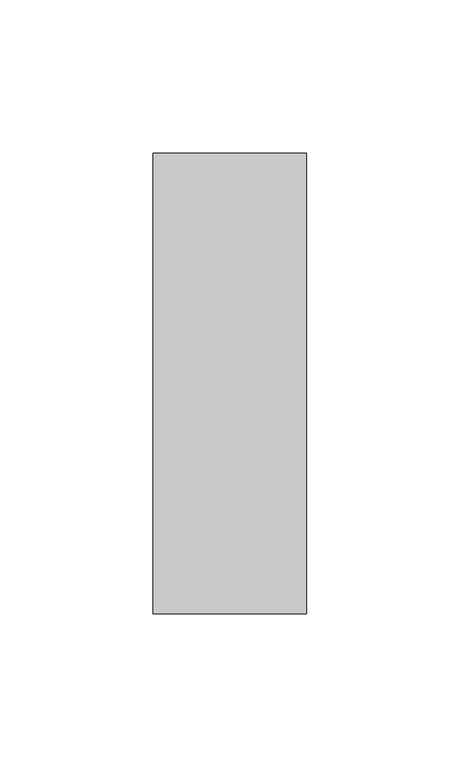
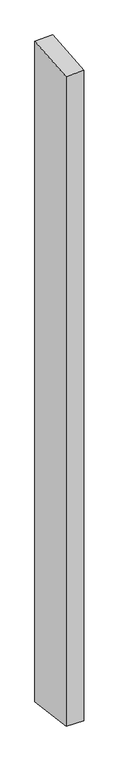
"""IFC4 building model written with IfcOpenShell, lengths in millimetres: member geometry, Прямоугольный импост : 50 x 150 мм."""

from ifc_helpers import new_model, si_unit, origin, place, context, project, spatial, faceted_brep, source, transform, mapped, element, save


def member_cb868340(model_context):
    return source(origin(), model_context, "Body", "Brep", [
        faceted_brep([(-25.0, 75.0, 5.7993512), (25.0, 75.0, 7.1667461), (25.0, 75.0, -1940.1578519), (-25.0, 75.0, -1938.3707979), (-25.0, -75.0, -7.1667461), (-25.0, -75.0, -1920.1500268), (25.0, -75.0, -5.7993512), (25.0, -75.0, -1921.9370808)], [[[0, 1, 2, 3]], [[4, 0, 3, 5]], [[6, 4, 5, 7]], [[1, 6, 7, 2]], [[1, 0, 4, 6]], [[2, 7, 5, 3]]]),
    ])


if __name__ == "__main__":
    model = new_model("IFC4")
    model_context = context("Model", 3, world=origin())
    ifc_project = project(units=[si_unit("LENGTHUNIT", "METRE", prefix="MILLI")], contexts=[model_context])
    site = spatial("IfcSite", under=ifc_project)
    building = spatial("IfcBuilding", under=site)
    placement = place(None, origin())
    member_shape = member_cb868340(model_context)
    element("IfcMember", 1, ObjectType="Прямоугольный импост : 50 x 150 мм", at=placement, inside=building, context=model_context, shape_type="MappedRepresentation", body=[
        mapped(member_shape, transform((0.0, 0.0, 0.0), x_axis=(1.0, 0.0, 0.0), y_axis=(0.0, 1.0, 0.0), z_axis=(0.0, 0.0, 1.0))),
    ])
    save(model, "model.ifc")
